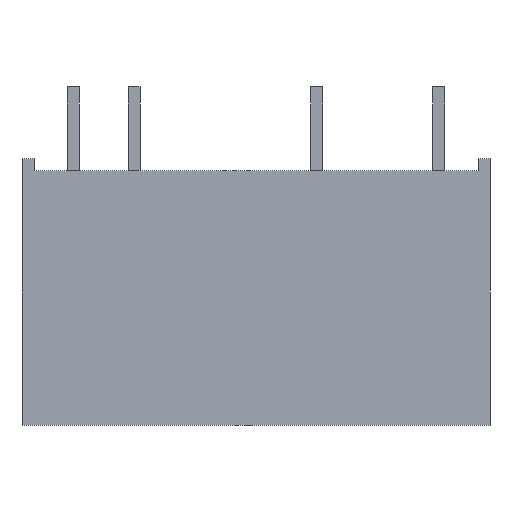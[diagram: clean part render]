
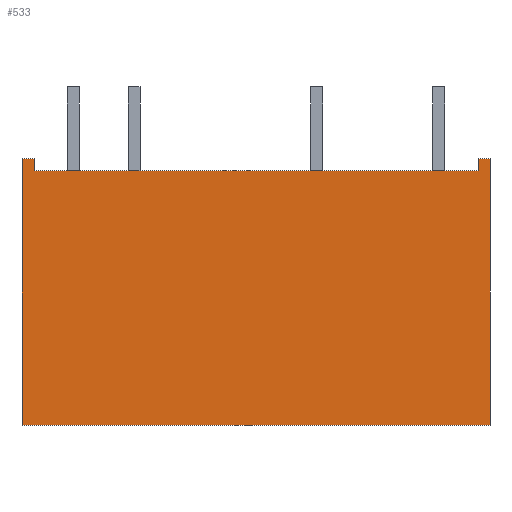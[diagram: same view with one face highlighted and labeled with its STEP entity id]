
A CAD part, front view. The second image highlights one B-rep face of the part: STEP entity #533.
In plain terms, the highlighted planar face has unit normal (0, -1, 0).
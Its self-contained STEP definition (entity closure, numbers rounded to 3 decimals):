
#68=ORIENTED_EDGE('',*,*,#174,.T.);
#69=ORIENTED_EDGE('',*,*,#202,.T.);
#70=ORIENTED_EDGE('',*,*,#184,.F.);
#71=ORIENTED_EDGE('',*,*,#188,.F.);
#72=ORIENTED_EDGE('',*,*,#198,.F.);
#73=ORIENTED_EDGE('',*,*,#195,.F.);
#74=ORIENTED_EDGE('',*,*,#193,.F.);
#75=ORIENTED_EDGE('',*,*,#203,.T.);
#174=EDGE_CURVE('',#247,#246,#294,.T.);
#184=EDGE_CURVE('',#256,#257,#304,.T.);
#188=EDGE_CURVE('',#260,#256,#308,.T.);
#193=EDGE_CURVE('',#264,#265,#313,.T.);
#195=EDGE_CURVE('',#265,#266,#315,.T.);
#198=EDGE_CURVE('',#266,#260,#318,.T.);
#202=EDGE_CURVE('',#246,#257,#322,.T.);
#203=EDGE_CURVE('',#264,#247,#323,.T.);
#246=VERTEX_POINT('',#755);
#247=VERTEX_POINT('',#757);
#256=VERTEX_POINT('',#777);
#257=VERTEX_POINT('',#778);
#260=VERTEX_POINT('',#786);
#264=VERTEX_POINT('',#795);
#265=VERTEX_POINT('',#797);
#266=VERTEX_POINT('',#801);
#294=LINE('',#756,#366);
#304=LINE('',#776,#376);
#308=LINE('',#785,#380);
#313=LINE('',#796,#385);
#315=LINE('',#800,#387);
#318=LINE('',#806,#390);
#322=LINE('',#812,#394);
#323=LINE('',#813,#395);
#366=VECTOR('',#613,1000.);
#376=VECTOR('',#625,1000.);
#380=VECTOR('',#631,1000.);
#385=VECTOR('',#638,1000.);
#387=VECTOR('',#642,1000.);
#390=VECTOR('',#647,1000.);
#394=VECTOR('',#655,1000.);
#395=VECTOR('',#656,1000.);
#439=EDGE_LOOP('',(#68,#69,#70,#71,#72,#73,#74,#75));
#473=FACE_BOUND('',#439,.T.);
#503=PLANE('',#576);
#533=ADVANCED_FACE('',(#473),#503,.F.);
#576=AXIS2_PLACEMENT_3D('',#811,#653,#654);
#613=DIRECTION('',(-1.,0.,0.));
#625=DIRECTION('',(1.,0.,0.));
#631=DIRECTION('',(0.,0.,1.));
#638=DIRECTION('',(1.,0.,0.));
#642=DIRECTION('',(0.,0.,-1.));
#647=DIRECTION('',(-1.,0.,0.));
#653=DIRECTION('',(0.,1.,0.));
#654=DIRECTION('',(0.,0.,1.));
#655=DIRECTION('',(0.,0.,1.));
#656=DIRECTION('',(0.,0.,-1.));
#755=CARTESIAN_POINT('',(-9.25,0.,6.41));
#756=CARTESIAN_POINT('',(-9.25,0.,6.41));
#757=CARTESIAN_POINT('',(9.25,0.,6.41));
#776=CARTESIAN_POINT('',(-9.75,0.,6.91));
#777=CARTESIAN_POINT('',(-9.75,0.,6.91));
#778=CARTESIAN_POINT('',(-9.25,0.,6.91));
#785=CARTESIAN_POINT('',(-9.75,0.,-4.19));
#786=CARTESIAN_POINT('',(-9.75,0.,-4.19));
#795=CARTESIAN_POINT('',(9.25,0.,6.91));
#796=CARTESIAN_POINT('',(-9.75,0.,6.91));
#797=CARTESIAN_POINT('',(9.75,0.,6.91));
#800=CARTESIAN_POINT('',(9.75,0.,-4.19));
#801=CARTESIAN_POINT('',(9.75,0.,-4.19));
#806=CARTESIAN_POINT('',(-9.75,0.,-4.19));
#811=CARTESIAN_POINT('',(-9.75,0.,6.91));
#812=CARTESIAN_POINT('',(-9.25,0.,6.91));
#813=CARTESIAN_POINT('',(9.25,0.,6.91));
